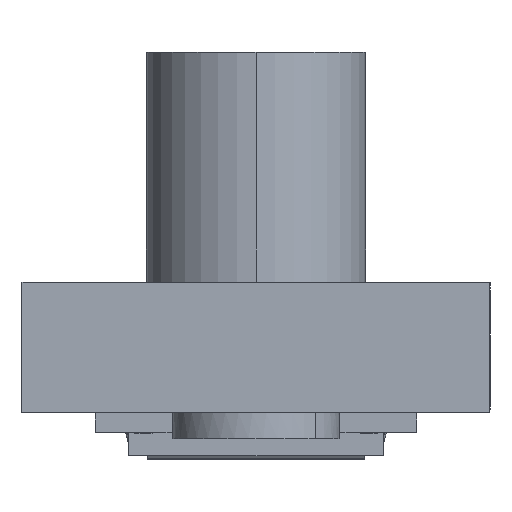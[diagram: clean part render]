
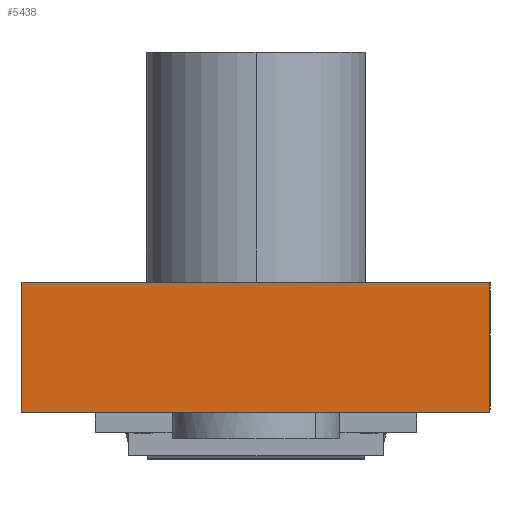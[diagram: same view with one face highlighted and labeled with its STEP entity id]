
A CAD part, left-side view. The second image highlights one B-rep face of the part: STEP entity #5438.
In plain terms, the highlighted planar face has unit normal (-1, 0, 0).
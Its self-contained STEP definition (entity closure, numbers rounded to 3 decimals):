
#683 = ORIENTED_EDGE ( 'NONE', *, *, #1266, .F. ) ;
#795 = CARTESIAN_POINT ( 'NONE',  ( -39.696, 19.102, -5.05 ) ) ;
#886 = CARTESIAN_POINT ( 'NONE',  ( -39.696, 11.2, -82.784 ) ) ;
#1060 = CARTESIAN_POINT ( 'NONE',  ( -39.696, -11.2, -5.05 ) ) ;
#1266 = EDGE_CURVE ( 'NONE', #3710, #4370, #11517, .T. ) ;
#2234 = FACE_OUTER_BOUND ( 'NONE', #3000, .T. ) ;
#2463 = VERTEX_POINT ( 'NONE', #6384 ) ;
#2541 = DIRECTION ( 'NONE',  ( 0., 0., 1. ) ) ;
#2792 = ORIENTED_EDGE ( 'NONE', *, *, #15591, .T. ) ;
#3000 = EDGE_LOOP ( 'NONE', ( #2792, #13694, #683, #8932 ) ) ;
#3710 = VERTEX_POINT ( 'NONE', #10195 ) ;
#4370 = VERTEX_POINT ( 'NONE', #16722 ) ;
#4386 = DIRECTION ( 'NONE',  ( 0., -1., 0. ) ) ;
#4393 = LINE ( 'NONE', #13558, #10693 ) ;
#4661 = EDGE_CURVE ( 'NONE', #3710, #12638, #16937, .T. ) ;
#5438 = ADVANCED_FACE ( 'NONE', ( #2234 ), #6064, .F. ) ;
#5771 = LINE ( 'NONE', #6104, #8716 ) ;
#6064 = PLANE ( 'NONE',  #12672 ) ;
#6104 = CARTESIAN_POINT ( 'NONE',  ( -39.696, 11.2, 1.2 ) ) ;
#6370 = DIRECTION ( 'NONE',  ( 0., -1., 0. ) ) ;
#6384 = CARTESIAN_POINT ( 'NONE',  ( -39.696, -11.2, 1.2 ) ) ;
#7541 = DIRECTION ( 'NONE',  ( 1., 0., 0. ) ) ;
#8716 = VECTOR ( 'NONE', #4386, 1000. ) ;
#8932 = ORIENTED_EDGE ( 'NONE', *, *, #4661, .T. ) ;
#10075 = CARTESIAN_POINT ( 'NONE',  ( -39.696, 0., 1.2 ) ) ;
#10195 = CARTESIAN_POINT ( 'NONE',  ( -39.696, 11.2, -5.05 ) ) ;
#10693 = VECTOR ( 'NONE', #11086, 1000. ) ;
#11086 = DIRECTION ( 'NONE',  ( 0., 0., 1. ) ) ;
#11517 = LINE ( 'NONE', #886, #13840 ) ;
#12638 = VERTEX_POINT ( 'NONE', #1060 ) ;
#12672 = AXIS2_PLACEMENT_3D ( 'NONE', #10075, #7541, #12872 ) ;
#12872 = DIRECTION ( 'NONE',  ( 0., 0., 1. ) ) ;
#13248 = VECTOR ( 'NONE', #6370, 1000. ) ;
#13558 = CARTESIAN_POINT ( 'NONE',  ( -39.696, -11.2, -82.784 ) ) ;
#13694 = ORIENTED_EDGE ( 'NONE', *, *, #16668, .F. ) ;
#13840 = VECTOR ( 'NONE', #2541, 1000. ) ;
#15591 = EDGE_CURVE ( 'NONE', #12638, #2463, #4393, .T. ) ;
#16668 = EDGE_CURVE ( 'NONE', #4370, #2463, #5771, .T. ) ;
#16722 = CARTESIAN_POINT ( 'NONE',  ( -39.696, 11.2, 1.2 ) ) ;
#16937 = LINE ( 'NONE', #795, #13248 ) ;
